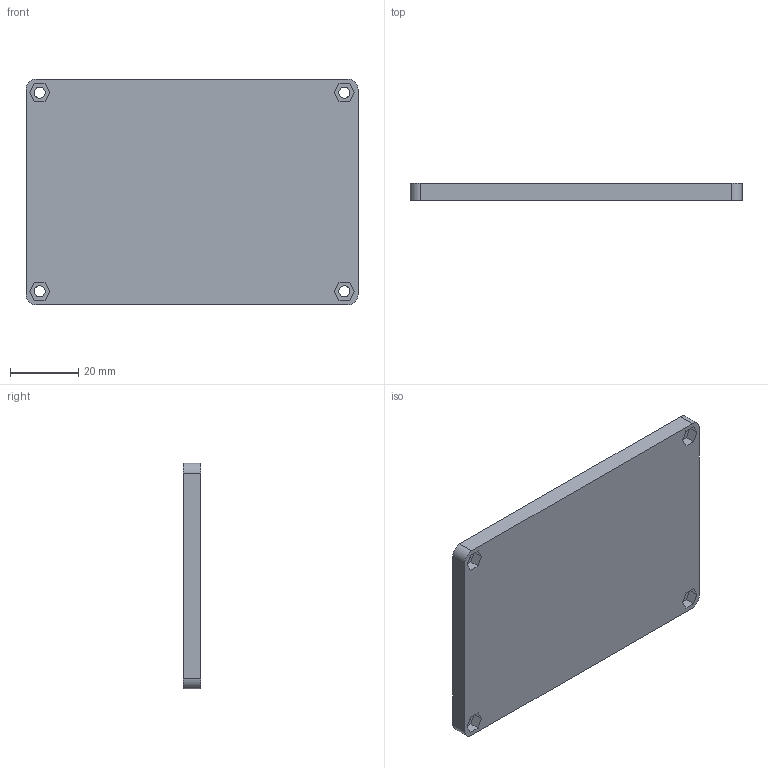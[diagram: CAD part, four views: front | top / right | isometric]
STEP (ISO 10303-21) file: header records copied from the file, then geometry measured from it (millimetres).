
FILE_DESCRIPTION(/* description */ (''),/* implementation_level */ '2;1');
FILE_NAME(/* name */ 'Altmann OpenRemise Boden V2.step',/* time_stamp */ '2025-05-24T14:39:54+02:00',/* author */ (''),/* organization */ (''),/* preprocessor_version */ 'ST-DEVELOPER v20.1',/* originating_system */ 'Autodesk Translation Framework v14.4.0.0',/* authorisation */ '');
FILE_SCHEMA (('AUTOMOTIVE_DESIGN { 1 0 10303 214 3 1 1 }'));
Length unit declared in the file: millimetre
Products named in the file (1): Altmann OpenRemise
Bounding box: 97 x 5 x 66 mm (x, y, z)
Volume: 17061 mm3; surface area: 15434.8 mm2
Topology: 1 solids, 1 shells, 75 faces, 175 edges, 114 vertices
Faces by surface type: plane 55, cylinder 12, cone 8
Full cylindrical faces by diameter (mm): 3.2 x4, 3.5 x4
Entity records: 2205 total; most frequent: CARTESIAN_POINT 365, DIRECTION 363, ORIENTED_EDGE 350, EDGE_CURVE 175, LINE 139, VECTOR 139, VERTEX_POINT 114, AXIS2_PLACEMENT_3D 112
